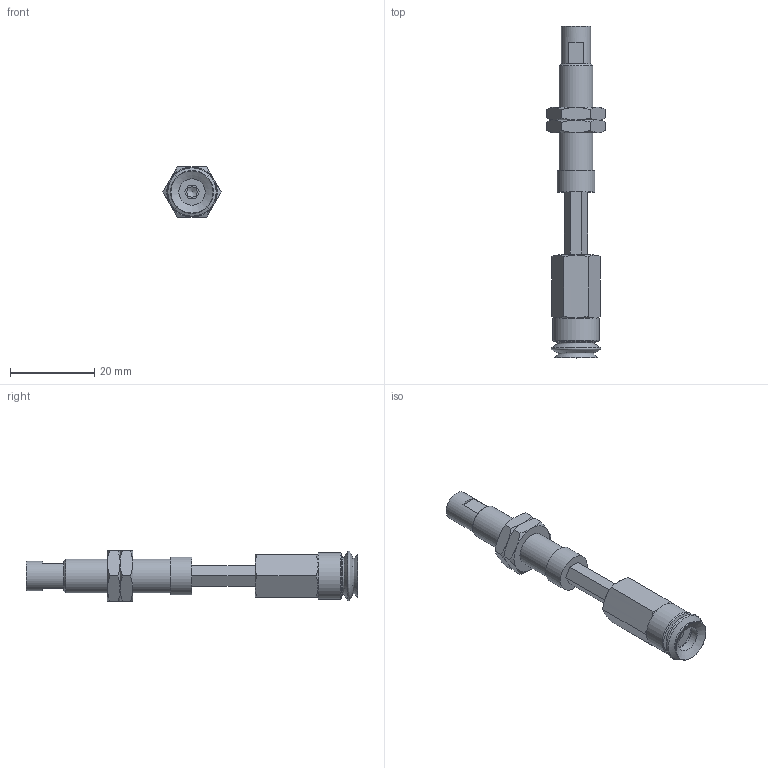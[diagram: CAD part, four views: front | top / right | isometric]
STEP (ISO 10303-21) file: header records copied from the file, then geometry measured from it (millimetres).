
FILE_DESCRIPTION(('STEP AP203'),'1');
FILE_NAME('.stp','2025-08-27T06:48:06',(' '),(' '),'Spatial InterOp 3D',' ',' ');
FILE_SCHEMA(('CONFIG_CONTROL_DESIGN'));
Length unit declared in the file: millimetre
Products named in the file (7): BNABPJTH-10-15-※; ADAPTER; NAPCTH-10-15-MBODY; Adapter-10-NAPJ; NAPJH-10-15-NUT; NAPJTH-10-15-FBODY; BPJG-10-※
Assembly tree (7 placements, depth 2):
  BNABPJTH-10-15-※
    ADAPTER
    NAPCTH-10-15-MBODY
    Adapter-10-NAPJ
    NAPJH-10-15-NUT  x2
    NAPJTH-10-15-FBODY
    BPJG-10-※
Bounding box: 13.86 x 79 x 12 mm (x, y, z)
Volume: 4510.6 mm3; surface area: 5001.7 mm2
Topology: 7 solids, 7 shells, 132 faces, 285 edges, 173 vertices
Faces by surface type: plane 60, cone 51, cylinder 14, torus 7
Full cylindrical faces by diameter (mm): 2.5 x1, 4.134 x2, 4.6 x1, 5 x1, 6.266 x1, 7 x1, 7.188 x2, 7.8 x1, 8 x2, 9 x1, 11 x1
Entity records: 3444 total; most frequent: CARTESIAN_POINT 938, DIRECTION 450, ORIENTED_EDGE 386, EDGE_CURVE 193, AXIS2_PLACEMENT_3D 188, EDGE_LOOP 156, VERTEX_POINT 136, FACE_OUTER_BOUND 129
